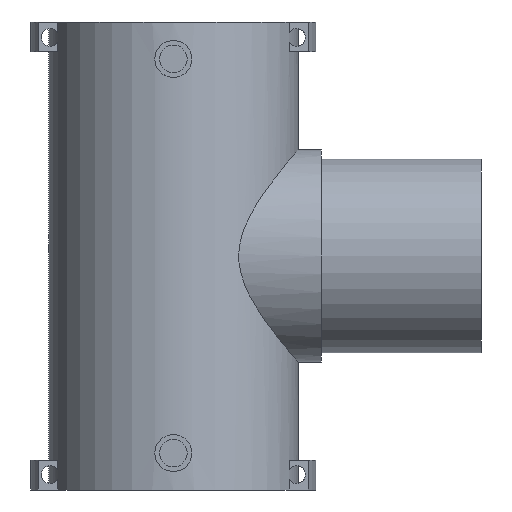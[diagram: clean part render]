
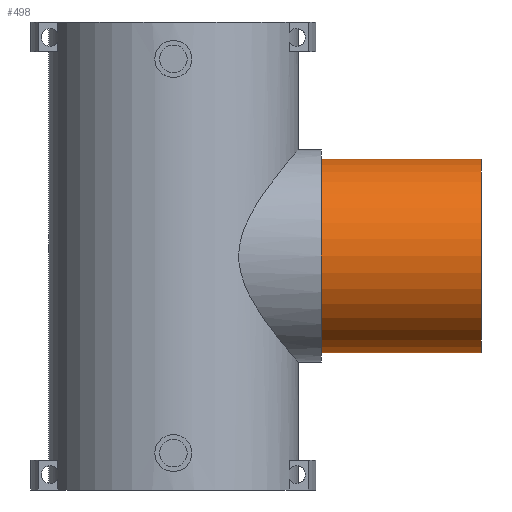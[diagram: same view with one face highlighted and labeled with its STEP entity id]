
A CAD part, front view. The second image highlights one B-rep face of the part: STEP entity #498.
In plain terms, the highlighted cylindrical face has radius 31.5 mm (diameter 63 mm), a partial arc.
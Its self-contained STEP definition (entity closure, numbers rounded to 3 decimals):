
#134 = VECTOR ( 'NONE', #2298, 1000. ) ;
#138 = VECTOR ( 'NONE', #2303, 1000. ) ;
#171 = CIRCLE ( 'NONE', #174, 31.5 ) ;
#173 = CIRCLE ( 'NONE', #176, 31.5 ) ;
#174 = AXIS2_PLACEMENT_3D ( 'NONE', #2358, #2359, #2360 ) ;
#176 = AXIS2_PLACEMENT_3D ( 'NONE', #2363, #2364, #2365 ) ;
#293 = AXIS2_PLACEMENT_3D ( 'NONE', #2034, #2036, #2037 ) ;
#409 = VERTEX_POINT ( 'NONE', #1787 ) ;
#412 = VERTEX_POINT ( 'NONE', #1790 ) ;
#415 = VERTEX_POINT ( 'NONE', #1793 ) ;
#418 = VERTEX_POINT ( 'NONE', #1796 ) ;
#498 = ADVANCED_FACE ( 'NONE', ( #2033 ), #2035, .T. ) ;
#537 = EDGE_CURVE ( 'NONE', #412, #418, #2293, .T. ) ;
#539 = EDGE_CURVE ( 'NONE', #409, #415, #2297, .T. ) ;
#558 = EDGE_CURVE ( 'NONE', #409, #412, #171, .T. ) ;
#559 = EDGE_CURVE ( 'NONE', #415, #418, #173, .T. ) ;
#850 = EDGE_LOOP ( 'NONE', ( #1267, #1268, #1269, #1270 ) ) ;
#1267 = ORIENTED_EDGE ( 'NONE', *, *, #537, .F. ) ;
#1268 = ORIENTED_EDGE ( 'NONE', *, *, #558, .F. ) ;
#1269 = ORIENTED_EDGE ( 'NONE', *, *, #539, .T. ) ;
#1270 = ORIENTED_EDGE ( 'NONE', *, *, #559, .T. ) ;
#1787 = CARTESIAN_POINT ( 'NONE',  ( 100., 0., 31.5 ) ) ;
#1790 = CARTESIAN_POINT ( 'NONE',  ( 100., 0., -31.5 ) ) ;
#1793 = CARTESIAN_POINT ( 'NONE',  ( 48., 0., 31.5 ) ) ;
#1796 = CARTESIAN_POINT ( 'NONE',  ( 48., 0., -31.5 ) ) ;
#2033 = FACE_OUTER_BOUND ( 'NONE', #850, .T. ) ;
#2034 = CARTESIAN_POINT ( 'NONE',  ( 124.5, 0., 0. ) ) ;
#2035 = CYLINDRICAL_SURFACE ( 'NONE', #293, 31.5 ) ;
#2036 = DIRECTION ( 'NONE',  ( -1., 0., 0. ) ) ;
#2037 = DIRECTION ( 'NONE',  ( 0., 0., 1. ) ) ;
#2290 = CARTESIAN_POINT ( 'NONE',  ( 124.5, 0., -31.5 ) ) ;
#2292 = CARTESIAN_POINT ( 'NONE',  ( 124.5, 0., 31.5 ) ) ;
#2293 = LINE ( 'NONE', #2290, #134 ) ;
#2297 = LINE ( 'NONE', #2292, #138 ) ;
#2298 = DIRECTION ( 'NONE',  ( -1., 0., 0. ) ) ;
#2303 = DIRECTION ( 'NONE',  ( -1., 0., 0. ) ) ;
#2358 = CARTESIAN_POINT ( 'NONE',  ( 100., 0., 0. ) ) ;
#2359 = DIRECTION ( 'NONE',  ( 1., 0., 0. ) ) ;
#2360 = DIRECTION ( 'NONE',  ( 0., 0., 1. ) ) ;
#2363 = CARTESIAN_POINT ( 'NONE',  ( 48., 0., 0. ) ) ;
#2364 = DIRECTION ( 'NONE',  ( 1., 0., 0. ) ) ;
#2365 = DIRECTION ( 'NONE',  ( 0., 0., 1. ) ) ;
